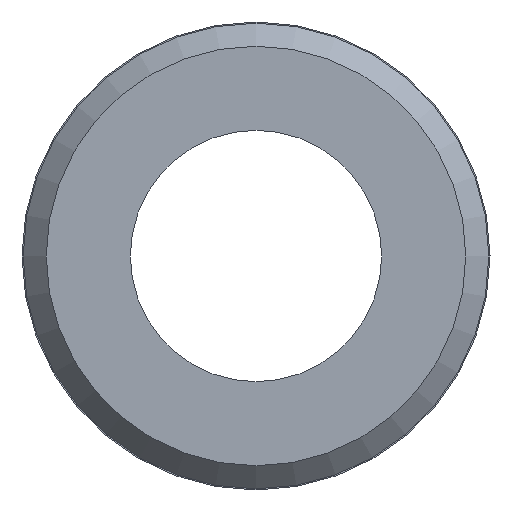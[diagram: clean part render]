
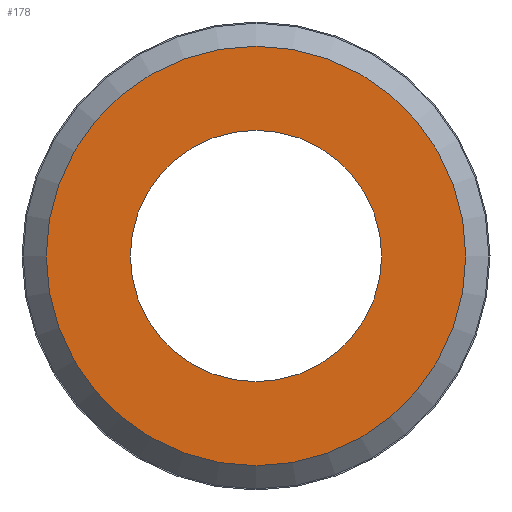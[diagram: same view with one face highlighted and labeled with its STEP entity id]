
A CAD part, front view. The second image highlights one B-rep face of the part: STEP entity #178.
In plain terms, the highlighted planar face has unit normal (0, -1, 0).
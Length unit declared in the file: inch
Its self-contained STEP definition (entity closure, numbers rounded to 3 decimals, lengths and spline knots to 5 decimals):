
#16=FACE_BOUND('',#44,.T.);
#20=PLANE('',#214);
#32=FACE_OUTER_BOUND('',#43,.T.);
#43=EDGE_LOOP('',(#148));
#44=EDGE_LOOP('',(#149,#150));
#70=CIRCLE('',#208,0.182);
#75=CIRCLE('',#215,0.109);
#76=CIRCLE('',#216,0.109);
#88=VERTEX_POINT('',#310);
#93=VERTEX_POINT('',#324);
#94=VERTEX_POINT('',#325);
#108=EDGE_CURVE('',#88,#88,#70,.T.);
#115=EDGE_CURVE('',#93,#94,#75,.T.);
#116=EDGE_CURVE('',#94,#93,#76,.T.);
#148=ORIENTED_EDGE('',*,*,#108,.F.);
#149=ORIENTED_EDGE('',*,*,#115,.F.);
#150=ORIENTED_EDGE('',*,*,#116,.F.);
#178=ADVANCED_FACE('',(#32,#16),#20,.T.);
#208=AXIS2_PLACEMENT_3D('',#311,#251,#252);
#214=AXIS2_PLACEMENT_3D('',#323,#265,#266);
#215=AXIS2_PLACEMENT_3D('',#326,#267,#268);
#216=AXIS2_PLACEMENT_3D('',#327,#269,#270);
#251=DIRECTION('center_axis',(0.,1.,0.));
#252=DIRECTION('ref_axis',(0.,0.,1.));
#265=DIRECTION('center_axis',(0.,-1.,0.));
#266=DIRECTION('ref_axis',(0.,0.,-1.));
#267=DIRECTION('center_axis',(0.,-1.,0.));
#268=DIRECTION('ref_axis',(1.,0.,0.));
#269=DIRECTION('center_axis',(0.,-1.,0.));
#270=DIRECTION('ref_axis',(1.,0.,0.));
#310=CARTESIAN_POINT('',(0.,0.,-0.182));
#311=CARTESIAN_POINT('Origin',(0.,0.,0.));
#323=CARTESIAN_POINT('Origin',(0.,0.,-0.109));
#324=CARTESIAN_POINT('',(0.,0.,-0.109));
#325=CARTESIAN_POINT('',(0.,0.,0.109));
#326=CARTESIAN_POINT('Origin',(0.,0.,0.));
#327=CARTESIAN_POINT('Origin',(0.,0.,0.));
